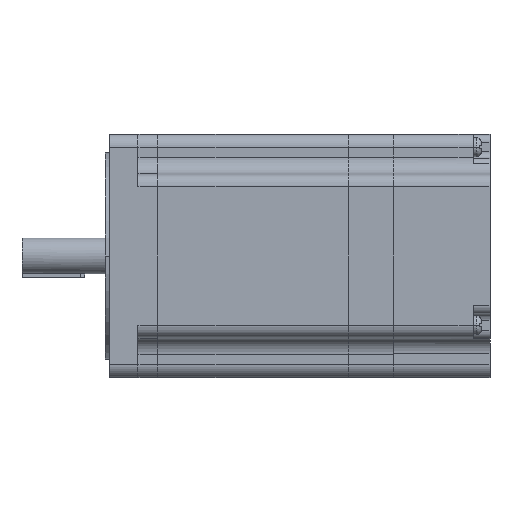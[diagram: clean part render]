
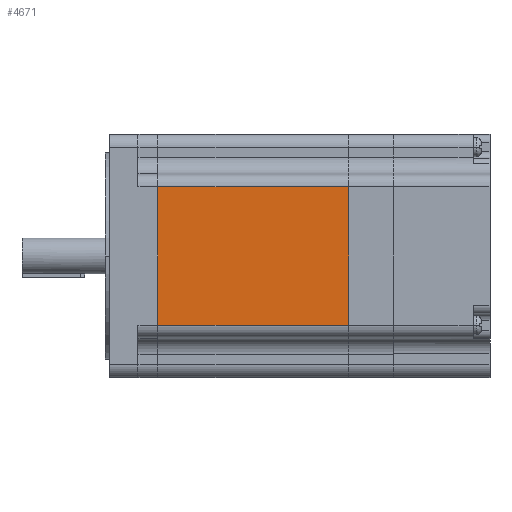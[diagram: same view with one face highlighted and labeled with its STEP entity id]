
A CAD part, left-side view. The second image highlights one B-rep face of the part: STEP entity #4671.
In plain terms, the highlighted planar face has unit normal (-1, 0, 0).
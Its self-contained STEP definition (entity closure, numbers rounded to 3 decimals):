
#3908=DIRECTION('',(0.,0.,1.));
#3909=VECTOR('',#3908,48.94);
#3910=CARTESIAN_POINT('',(-43.,0.,-24.47));
#3911=LINE('',#3910,#3909);
#4111=DIRECTION('',(0.,1.,0.));
#4112=VECTOR('',#4111,67.5);
#4113=CARTESIAN_POINT('',(-43.,0.,24.47));
#4114=LINE('',#4113,#4112);
#4119=DIRECTION('',(0.,0.,1.));
#4120=VECTOR('',#4119,48.94);
#4121=CARTESIAN_POINT('',(-43.,67.5,-24.47));
#4122=LINE('',#4121,#4120);
#4127=DIRECTION('',(0.,-1.,0.));
#4128=VECTOR('',#4127,67.5);
#4129=CARTESIAN_POINT('',(-43.,67.5,-24.47));
#4130=LINE('',#4129,#4128);
#4235=CARTESIAN_POINT('',(-43.,0.,-24.47));
#4236=VERTEX_POINT('',#4235);
#4237=CARTESIAN_POINT('',(-43.,0.,24.47));
#4238=VERTEX_POINT('',#4237);
#4315=CARTESIAN_POINT('',(-43.,67.5,24.47));
#4316=VERTEX_POINT('',#4315);
#4317=CARTESIAN_POINT('',(-43.,67.5,-24.47));
#4318=VERTEX_POINT('',#4317);
#4658=CARTESIAN_POINT('',(-43.,0.,-28.97));
#4659=DIRECTION('',(-1.,0.,0.));
#4660=DIRECTION('',(0.,0.,1.));
#4661=AXIS2_PLACEMENT_3D('',#4658,#4659,#4660);
#4662=PLANE('',#4661);
#4664=ORIENTED_EDGE('',*,*,#4663,.F.);
#4666=ORIENTED_EDGE('',*,*,#4665,.T.);
#4667=ORIENTED_EDGE('',*,*,#4650,.F.);
#4668=ORIENTED_EDGE('',*,*,#4344,.F.);
#4669=EDGE_LOOP('',(#4664,#4666,#4667,#4668));
#4670=FACE_OUTER_BOUND('',#4669,.F.);
#4671=ADVANCED_FACE('',(#4670),#4662,.T.);
#4344=EDGE_CURVE('',#4236,#4238,#3911,.T.);
#4650=EDGE_CURVE('',#4238,#4316,#4114,.T.);
#4663=EDGE_CURVE('',#4318,#4236,#4130,.T.);
#4665=EDGE_CURVE('',#4318,#4316,#4122,.T.);
